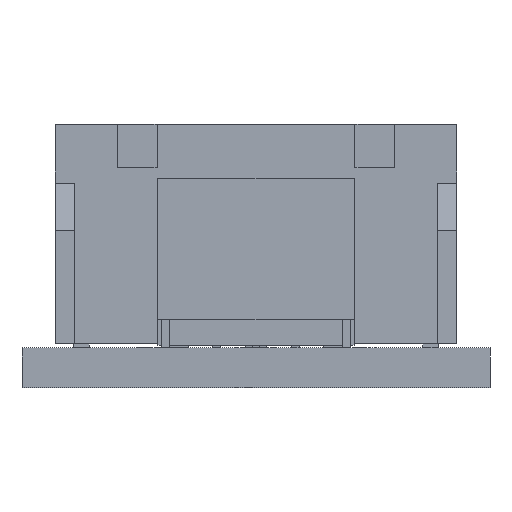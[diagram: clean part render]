
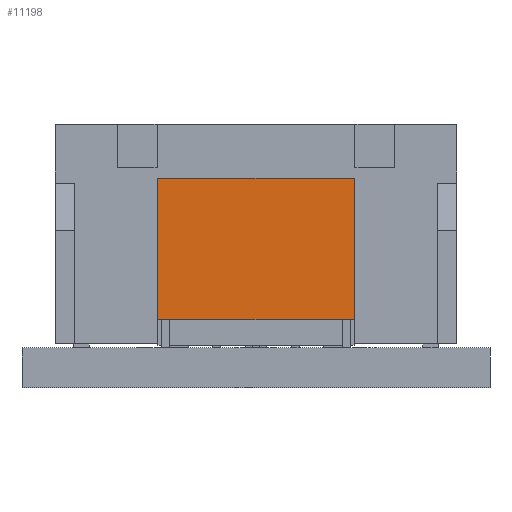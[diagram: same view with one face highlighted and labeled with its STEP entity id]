
A CAD part, front view. The second image highlights one B-rep face of the part: STEP entity #11198.
In plain terms, the highlighted planar face has unit normal (0, -1, 0).
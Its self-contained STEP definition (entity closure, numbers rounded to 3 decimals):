
#247 = VECTOR ( 'NONE', #26199, 1000. ) ;
#438 = ORIENTED_EDGE ( 'NONE', *, *, #11032, .T. ) ;
#1173 = EDGE_LOOP ( 'NONE', ( #14580, #438, #10861, #31135 ) ) ;
#1449 = FACE_OUTER_BOUND ( 'NONE', #1173, .T. ) ;
#2564 = CARTESIAN_POINT ( 'NONE',  ( 3.469, 4.316, 5.336 ) ) ;
#3650 = EDGE_CURVE ( 'NONE', #27134, #9144, #29999, .T. ) ;
#7863 = DIRECTION ( 'NONE',  ( -1., 0., 0. ) ) ;
#9144 = VERTEX_POINT ( 'NONE', #30972 ) ;
#10861 = ORIENTED_EDGE ( 'NONE', *, *, #15994, .F. ) ;
#11032 = EDGE_CURVE ( 'NONE', #9144, #11110, #11553, .T. ) ;
#11110 = VERTEX_POINT ( 'NONE', #32988 ) ;
#11198 = ADVANCED_FACE ( 'NONE', ( #1449 ), #25731, .F. ) ;
#11553 = LINE ( 'NONE', #21954, #27792 ) ;
#11693 = EDGE_CURVE ( 'NONE', #27134, #17494, #31531, .T. ) ;
#11834 = CARTESIAN_POINT ( 'NONE',  ( 3.469, 4.316, 5.336 ) ) ;
#13182 = DIRECTION ( 'NONE',  ( 1., 0., 0. ) ) ;
#14580 = ORIENTED_EDGE ( 'NONE', *, *, #3650, .T. ) ;
#15994 = EDGE_CURVE ( 'NONE', #17494, #11110, #32068, .T. ) ;
#17494 = VERTEX_POINT ( 'NONE', #26487 ) ;
#21954 = CARTESIAN_POINT ( 'NONE',  ( 3.469, 4.316, 1.736 ) ) ;
#22401 = DIRECTION ( 'NONE',  ( 0., 0., -1. ) ) ;
#23460 = DIRECTION ( 'NONE',  ( 0., 1., 0. ) ) ;
#23816 = CARTESIAN_POINT ( 'NONE',  ( 3.469, 4.316, 5.336 ) ) ;
#25731 = PLANE ( 'NONE',  #30003 ) ;
#26199 = DIRECTION ( 'NONE',  ( 0., 0., -1. ) ) ;
#26487 = CARTESIAN_POINT ( 'NONE',  ( 8.469, 4.316, 5.336 ) ) ;
#27134 = VERTEX_POINT ( 'NONE', #34233 ) ;
#27643 = VECTOR ( 'NONE', #22401, 1000. ) ;
#27792 = VECTOR ( 'NONE', #29899, 1000. ) ;
#29137 = CARTESIAN_POINT ( 'NONE',  ( 8.469, 4.316, 5.336 ) ) ;
#29899 = DIRECTION ( 'NONE',  ( 1., 0., 0. ) ) ;
#29999 = LINE ( 'NONE', #11834, #27643 ) ;
#30003 = AXIS2_PLACEMENT_3D ( 'NONE', #23816, #23460, #7863 ) ;
#30346 = VECTOR ( 'NONE', #13182, 1000. ) ;
#30972 = CARTESIAN_POINT ( 'NONE',  ( 3.469, 4.316, 1.736 ) ) ;
#31135 = ORIENTED_EDGE ( 'NONE', *, *, #11693, .F. ) ;
#31531 = LINE ( 'NONE', #2564, #30346 ) ;
#32068 = LINE ( 'NONE', #29137, #247 ) ;
#32988 = CARTESIAN_POINT ( 'NONE',  ( 8.469, 4.316, 1.736 ) ) ;
#34233 = CARTESIAN_POINT ( 'NONE',  ( 3.469, 4.316, 5.336 ) ) ;
